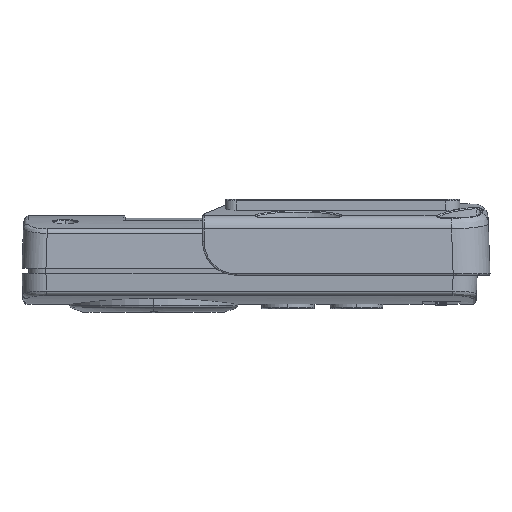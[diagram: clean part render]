
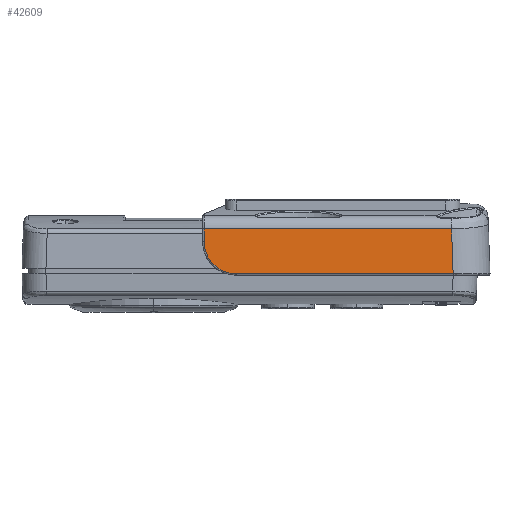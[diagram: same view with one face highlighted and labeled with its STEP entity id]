
A CAD part, left-side view. The second image highlights one B-rep face of the part: STEP entity #42609.
In plain terms, the highlighted planar face has unit normal (-0.999, 0, 0.035).
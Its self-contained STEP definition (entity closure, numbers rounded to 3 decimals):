
#782 = LINE ( 'NONE', #23219, #4091 ) ;
#2380 = CARTESIAN_POINT ( 'NONE',  ( -24.946, 9.509, 5.41 ) ) ;
#3090 = ORIENTED_EDGE ( 'NONE', *, *, #79441, .T. ) ;
#3617 = VECTOR ( 'NONE', #80401, 1000. ) ;
#4091 = VECTOR ( 'NONE', #35419, 1000. ) ;
#5433 = DIRECTION ( 'NONE',  ( 0., 1., 0. ) ) ;
#7783 = ORIENTED_EDGE ( 'NONE', *, *, #28092, .T. ) ;
#8686 = VECTOR ( 'NONE', #56245, 1000. ) ;
#9997 = EDGE_LOOP ( 'NONE', ( #13431, #20981, #43761, #3090, #7783 ) ) ;
#11751 = DIRECTION ( 'NONE',  ( -0.999, 0., 0.035 ) ) ;
#13431 = ORIENTED_EDGE ( 'NONE', *, *, #82944, .T. ) ;
#14057 = CARTESIAN_POINT ( 'NONE',  ( -24.946, 9.509, 5.41 ) ) ;
#18625 = CARTESIAN_POINT ( 'NONE',  ( -25.18, -42.496, -1.29 ) ) ;
#20179 = CARTESIAN_POINT ( 'NONE',  ( -24.855, -47.5, 8.04 ) ) ;
#20981 = ORIENTED_EDGE ( 'NONE', *, *, #55160, .T. ) ;
#21557 = VECTOR ( 'NONE', #46294, 1000. ) ;
#23219 = CARTESIAN_POINT ( 'NONE',  ( -25.15, -42.454, -0.412 ) ) ;
#25383 = LINE ( 'NONE', #18625, #3617 ) ;
#25571 = LINE ( 'NONE', #26453, #21557 ) ;
#26453 = CARTESIAN_POINT ( 'NONE',  ( -24.947, 9.509, 5.4 ) ) ;
#28092 = EDGE_CURVE ( 'NONE', #64961, #31480, #25571, .T. ) ;
#28110 = CARTESIAN_POINT ( 'NONE',  ( -24.855, 9.509, 8.04 ) ) ;
#30631 = CARTESIAN_POINT ( 'NONE',  ( -25.18, -42.485, -1.29 ) ) ;
#30684 = AXIS2_PLACEMENT_3D ( 'NONE', #53172, #11751, #5433 ) ;
#31480 = VERTEX_POINT ( 'NONE', #2380 ) ;
#34782 = CARTESIAN_POINT ( 'NONE',  ( -25.18, 6.734, -1.29 ) ) ;
#35419 = DIRECTION ( 'NONE',  ( 0.035, 0.035, 0.999 ) ) ;
#37801 = VERTEX_POINT ( 'NONE', #43701 ) ;
#41527 = CARTESIAN_POINT ( 'NONE',  ( -25.083, 9.509, 1.486 ) ) ;
#42609 = ADVANCED_FACE ( 'NONE', ( #67158 ), #45080, .T. ) ;
#43701 = CARTESIAN_POINT ( 'NONE',  ( -25.18, 2.809, -1.29 ) ) ;
#43761 = ORIENTED_EDGE ( 'NONE', *, *, #61465, .T. ) ;
#45080 = PLANE ( 'NONE',  #30684 ) ;
#46294 = DIRECTION ( 'NONE',  ( -0.035, 0., -0.999 ) ) ;
#47419 = CARTESIAN_POINT ( 'NONE',  ( -24.855, -42.159, 8.04 ) ) ;
#50042 =( BOUNDED_CURVE ( )  B_SPLINE_CURVE ( 3, ( #14057, #41527, #34782, #76272 ),
 .UNSPECIFIED., .F., .F. ) 
 B_SPLINE_CURVE_WITH_KNOTS ( ( 4, 4 ),
 ( 1.571, 3.142 ),
 .UNSPECIFIED. ) 
 CURVE ( )  GEOMETRIC_REPRESENTATION_ITEM ( )  RATIONAL_B_SPLINE_CURVE ( ( 1., 0.805, 0.805, 1. ) ) 
 REPRESENTATION_ITEM ( '' )  );
#52016 = VERTEX_POINT ( 'NONE', #47419 ) ;
#53172 = CARTESIAN_POINT ( 'NONE',  ( -25.198, -47.5, -1.806 ) ) ;
#55160 = EDGE_CURVE ( 'NONE', #37801, #69219, #25383, .T. ) ;
#56245 = DIRECTION ( 'NONE',  ( 0., 1., 0. ) ) ;
#61465 = EDGE_CURVE ( 'NONE', #69219, #52016, #782, .T. ) ;
#64961 = VERTEX_POINT ( 'NONE', #28110 ) ;
#67158 = FACE_OUTER_BOUND ( 'NONE', #9997, .T. ) ;
#69219 = VERTEX_POINT ( 'NONE', #30631 ) ;
#76272 = CARTESIAN_POINT ( 'NONE',  ( -25.18, 2.809, -1.29 ) ) ;
#79441 = EDGE_CURVE ( 'NONE', #52016, #64961, #81968, .T. ) ;
#80401 = DIRECTION ( 'NONE',  ( 0., -1., 0. ) ) ;
#81968 = LINE ( 'NONE', #20179, #8686 ) ;
#82944 = EDGE_CURVE ( 'NONE', #31480, #37801, #50042, .T. ) ;
